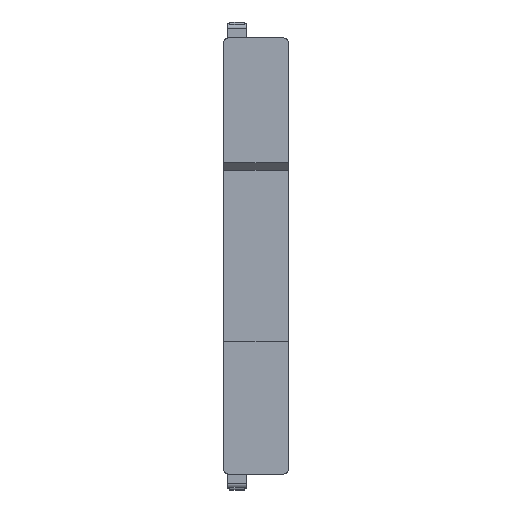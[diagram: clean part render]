
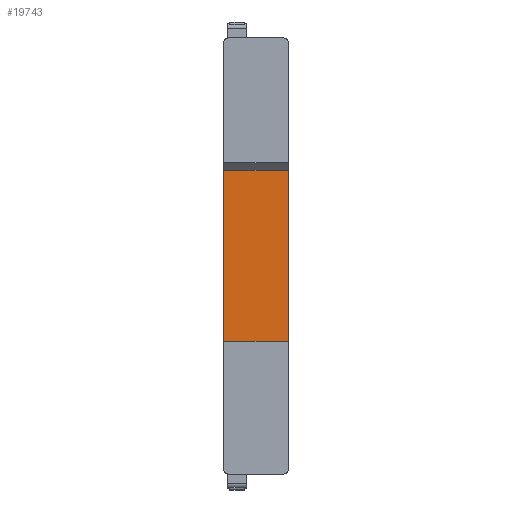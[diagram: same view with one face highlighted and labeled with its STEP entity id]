
A CAD part, front view. The second image highlights one B-rep face of the part: STEP entity #19743.
In plain terms, the highlighted planar face has unit normal (0, -1, 0).
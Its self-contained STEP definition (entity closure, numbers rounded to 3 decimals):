
#2346=DIRECTION('',(0.,0.,-1.));
#2347=VECTOR('',#2346,35.5);
#2348=CARTESIAN_POINT('',(0.,3.,17.75));
#2349=LINE('',#2348,#2347);
#6903=DIRECTION('',(0.,0.,-1.));
#6904=VECTOR('',#6903,35.5);
#6905=CARTESIAN_POINT('',(13.4,3.,17.75));
#6906=LINE('',#6905,#6904);
#7228=DIRECTION('',(-1.,0.,0.));
#7229=VECTOR('',#7228,13.4);
#7230=CARTESIAN_POINT('',(13.4,3.,17.75));
#7231=LINE('',#7230,#7229);
#7232=DIRECTION('',(1.,0.,0.));
#7233=VECTOR('',#7232,13.4);
#7234=CARTESIAN_POINT('',(0.,3.,-17.75));
#7235=LINE('',#7234,#7233);
#7464=CARTESIAN_POINT('',(13.4,3.,17.75));
#7465=CARTESIAN_POINT('',(0.,3.,17.75));
#7466=VERTEX_POINT('',#7464);
#7467=VERTEX_POINT('',#7465);
#7468=CARTESIAN_POINT('',(0.,3.,-17.75));
#7469=CARTESIAN_POINT('',(13.4,3.,-17.75));
#7470=VERTEX_POINT('',#7468);
#7471=VERTEX_POINT('',#7469);
#19731=CARTESIAN_POINT('',(0.,3.,0.));
#19732=DIRECTION('',(0.,-1.,0.));
#19733=DIRECTION('',(-1.,0.,0.));
#19734=AXIS2_PLACEMENT_3D('',#19731,#19732,#19733);
#19735=PLANE('',#19734);
#19737=ORIENTED_EDGE('',*,*,#19736,.F.);
#19738=ORIENTED_EDGE('',*,*,#18987,.T.);
#19739=ORIENTED_EDGE('',*,*,#19723,.F.);
#19740=ORIENTED_EDGE('',*,*,#12636,.F.);
#19741=EDGE_LOOP('',(#19737,#19738,#19739,#19740));
#19742=FACE_OUTER_BOUND('',#19741,.F.);
#19743=ADVANCED_FACE('',(#19742),#19735,.T.);
#12636=EDGE_CURVE('',#7467,#7470,#2349,.T.);
#18987=EDGE_CURVE('',#7466,#7471,#6906,.T.);
#19723=EDGE_CURVE('',#7470,#7471,#7235,.T.);
#19736=EDGE_CURVE('',#7466,#7467,#7231,.T.);
